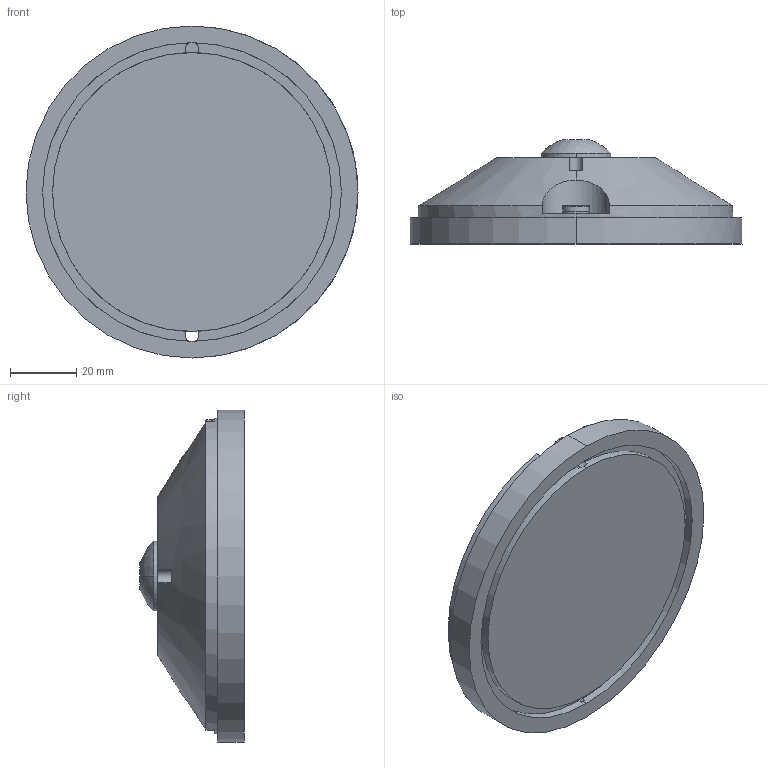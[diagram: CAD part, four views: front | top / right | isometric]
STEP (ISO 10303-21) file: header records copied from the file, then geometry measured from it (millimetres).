
FILE_DESCRIPTION (( 'STEP AP214' ), '1' );
FILE_NAME ('0019819 EZ-0300-100.STEP', '2022-02-28T11:56:17', ( '' ), ( '' ), 'SwSTEP 2.0', 'SolidWorks 2021', '' );
FILE_SCHEMA (( 'AUTOMOTIVE_DESIGN' ));
Length unit declared in the file: millimetre
Products named in the file (1): 0019819 EZ-0300-100
Bounding box: 100 x 31.42 x 100 mm (x, y, z)
Volume: 143183.1 mm3; surface area: 24556.8 mm2
Topology: 4 solids, 4 shells, 140 faces, 347 edges, 214 vertices
Faces by surface type: cylinder 54, plane 49, cone 33, sphere 2, bspline 2
Entity records: 5998 total; most frequent: CARTESIAN_POINT 1082, DIRECTION 719, ORIENTED_EDGE 670, EDGE_CURVE 335, AXIS2_PLACEMENT_3D 285, VERTEX_POINT 214, EDGE_LOOP 157, VECTOR 149
